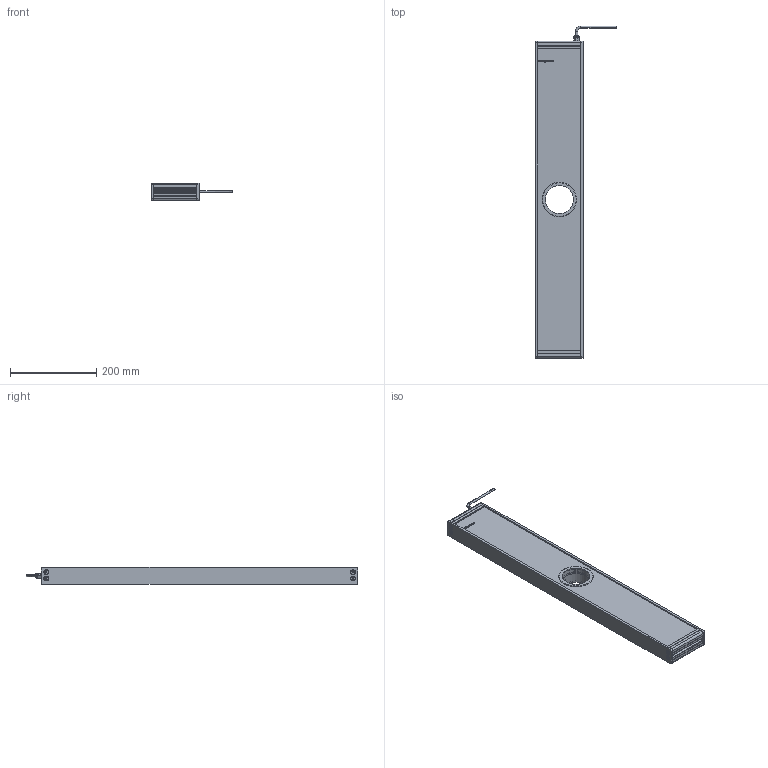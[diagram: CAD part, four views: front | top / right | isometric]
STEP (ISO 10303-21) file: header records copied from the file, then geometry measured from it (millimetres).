
FILE_DESCRIPTION (( 'STEP AP214' ), '1' );
FILE_NAME ('EFFI-FD-100T-700-M12 Ø65.STEP', '2021-07-02T12:00:51', ( '' ), ( '' ), 'SwSTEP 2.0', 'SolidWorks 2021', '' );
FILE_SCHEMA (( 'AUTOMOTIVE_DESIGN' ));
Length unit declared in the file: millimetre
Products named in the file (11): Assemblage Ø65; cordon_Avec cable; profile modif_lg 99.5 mm; Pièce2^EFFI-FD-XXXT-YYY-M12 Ø65; bord fin modif_lg 436.5 mm; EFFI-FD-100T-700-M12 Ø65; 004408; 003776; 004409; 000590
Assembly tree (20 placements, depth 3):
  EFFI-FD-100T-700-M12 Ø65
    profile modif_lg 99.5 mm
    bord fin modif_lg 436.5 mm  x2
    Pièce2^EFFI-FD-XXXT-YYY-M12 Ø65
    profile modif_lg 99.5 mm
    003776  x8
    cordon_Avec cable
    Assemblage Ø65
      004408
      004409
      000590  x3
Bounding box: 187.13 x 771.15 x 41 mm (x, y, z)
Volume: 2733766.9 mm3; surface area: 404136.2 mm2
Topology: 18 solids, 24 shells, 1002 faces, 2513 edges, 1575 vertices
Faces by surface type: plane 392, cylinder 233, bspline 180, cone 154, torus 35, sphere 8
Entity records: 25569 total; most frequent: CARTESIAN_POINT 8641, ORIENTED_EDGE 3310, DIRECTION 3055, EDGE_CURVE 1659, VERTEX_POINT 1072, AXIS2_PLACEMENT_3D 1032, LINE 991, VECTOR 991
